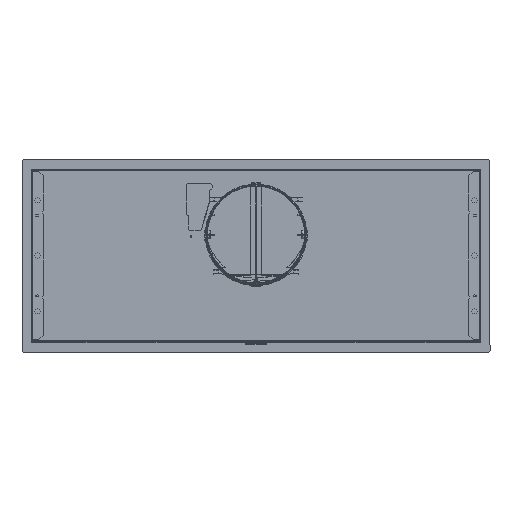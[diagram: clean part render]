
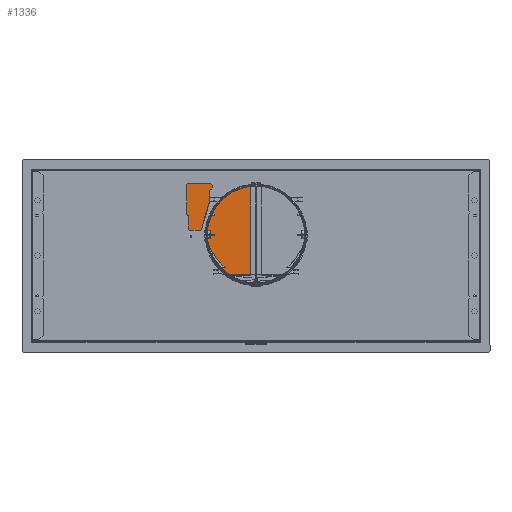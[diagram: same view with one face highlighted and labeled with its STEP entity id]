
A CAD part, top view. The second image highlights one B-rep face of the part: STEP entity #1336.
In plain terms, the highlighted planar face has unit normal (0, 0, 1) as drawn and (0, -1, 0) by its records, which use the part's own axes.
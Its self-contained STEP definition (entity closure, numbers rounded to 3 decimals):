
#1336=ADVANCED_FACE('',(#5806,#4336),#66808,.T.);
#4336=FACE_BOUND('',#9948,.T.);
#5806=FACE_OUTER_BOUND('',#9947,.T.);
#9947=EDGE_LOOP('',(#19059,#19060,#19061,#19062,#19063,#19064,#19065,#19066));
#9948=EDGE_LOOP('',(#19067,#19068,#19069,#19070,#19071,#19072));
#19059=ORIENTED_EDGE('',*,*,#36424,.T.);
#19060=ORIENTED_EDGE('',*,*,#36422,.F.);
#19061=ORIENTED_EDGE('',*,*,#36420,.T.);
#19062=ORIENTED_EDGE('',*,*,#36417,.F.);
#19063=ORIENTED_EDGE('',*,*,#36415,.T.);
#19064=ORIENTED_EDGE('',*,*,#36412,.F.);
#19065=ORIENTED_EDGE('',*,*,#36410,.T.);
#19066=ORIENTED_EDGE('',*,*,#36406,.F.);
#19067=ORIENTED_EDGE('',*,*,#36428,.F.);
#19068=ORIENTED_EDGE('',*,*,#36427,.F.);
#19069=ORIENTED_EDGE('',*,*,#36426,.F.);
#19070=ORIENTED_EDGE('',*,*,#36442,.F.);
#19071=ORIENTED_EDGE('',*,*,#36425,.F.);
#19072=ORIENTED_EDGE('',*,*,#36433,.F.);
#36406=EDGE_CURVE('',#59395,#59394,#52592,.T.);
#36410=EDGE_CURVE('',#59396,#59394,#44985,.T.);
#36412=EDGE_CURVE('',#59396,#59397,#52596,.T.);
#36415=EDGE_CURVE('',#59398,#59397,#44987,.T.);
#36417=EDGE_CURVE('',#59398,#59399,#52599,.T.);
#36420=EDGE_CURVE('',#59400,#59399,#44989,.T.);
#36422=EDGE_CURVE('',#59400,#59401,#52602,.T.);
#36424=EDGE_CURVE('',#59395,#59401,#44991,.T.);
#36425=EDGE_CURVE('',#59402,#59403,#52603,.T.);
#36426=EDGE_CURVE('',#59404,#59405,#52604,.T.);
#36427=EDGE_CURVE('',#59405,#59406,#52605,.T.);
#36428=EDGE_CURVE('',#59406,#59407,#52606,.T.);
#36433=EDGE_CURVE('',#59407,#59402,#44993,.T.);
#36442=EDGE_CURVE('',#59403,#59404,#44995,.T.);
#44985=TRIMMED_CURVE($,#48544,(#114822),(#114823),.T.,.CARTESIAN.);
#44987=TRIMMED_CURVE($,#48546,(#114834),(#114835),.T.,.CARTESIAN.);
#44989=TRIMMED_CURVE($,#48548,(#114846),(#114847),.T.,.CARTESIAN.);
#44991=TRIMMED_CURVE($,#48550,(#114856),(#114857),.T.,.CARTESIAN.);
#44993=TRIMMED_CURVE($,#48552,(#114876),(#114877),.T.,.CARTESIAN.);
#44995=TRIMMED_CURVE($,#48554,(#114896),(#114897),.T.,.CARTESIAN.);
#48544=CIRCLE('',#71085,0.5);
#48546=CIRCLE('',#71087,0.5);
#48548=CIRCLE('',#71089,0.5);
#48550=CIRCLE('',#71091,0.5);
#48552=CIRCLE('',#71093,1.);
#48554=CIRCLE('',#71095,1.);
#52592=B_SPLINE_CURVE_WITH_KNOTS('',1,(#114812,#114813),.UNSPECIFIED.,.F.,
 .F.,(2,2),(-142.,0.),.UNSPECIFIED.);
#52596=B_SPLINE_CURVE_WITH_KNOTS('',1,(#114826,#114827),.UNSPECIFIED.,.F.,
 .F.,(2,2),(-302.,0.),.UNSPECIFIED.);
#52599=B_SPLINE_CURVE_WITH_KNOTS('',1,(#114838,#114839),.UNSPECIFIED.,.F.,
 .F.,(2,2),(-142.,0.),.UNSPECIFIED.);
#52602=B_SPLINE_CURVE_WITH_KNOTS('',1,(#114850,#114851),.UNSPECIFIED.,.F.,
 .F.,(2,2),(-302.,0.),.UNSPECIFIED.);
#52603=B_SPLINE_CURVE_WITH_KNOTS('',1,(#114858,#114859),.UNSPECIFIED.,.F.,
 .F.,(2,2),(0.,31.),.UNSPECIFIED.);
#52604=B_SPLINE_CURVE_WITH_KNOTS('',1,(#114860,#114861),.UNSPECIFIED.,.F.,
 .F.,(2,2),(0.,42.),.UNSPECIFIED.);
#52605=B_SPLINE_CURVE_WITH_KNOTS('',1,(#114862,#114863),.UNSPECIFIED.,.F.,
 .F.,(2,2),(0.,33.),.UNSPECIFIED.);
#52606=B_SPLINE_CURVE_WITH_KNOTS('',1,(#114864,#114865),.UNSPECIFIED.,.F.,
 .F.,(2,2),(0.,42.),.UNSPECIFIED.);
#59394=VERTEX_POINT('',#113277);
#59395=VERTEX_POINT('',#113278);
#59396=VERTEX_POINT('',#113279);
#59397=VERTEX_POINT('',#113280);
#59398=VERTEX_POINT('',#113281);
#59399=VERTEX_POINT('',#113282);
#59400=VERTEX_POINT('',#113283);
#59401=VERTEX_POINT('',#113284);
#59402=VERTEX_POINT('',#113285);
#59403=VERTEX_POINT('',#113286);
#59404=VERTEX_POINT('',#113287);
#59405=VERTEX_POINT('',#113288);
#59406=VERTEX_POINT('',#113289);
#59407=VERTEX_POINT('',#113290);
#66808=PLANE('',#70892);
#70892=AXIS2_PLACEMENT_3D('',#112845,#78527,$);
#71085=AXIS2_PLACEMENT_3D($,#114821,#78905,#78906);
#71087=AXIS2_PLACEMENT_3D($,#114833,#78909,#78910);
#71089=AXIS2_PLACEMENT_3D($,#114845,#78913,#78914);
#71091=AXIS2_PLACEMENT_3D($,#114855,#78917,#78918);
#71093=AXIS2_PLACEMENT_3D($,#114875,#78921,#78922);
#71095=AXIS2_PLACEMENT_3D($,#114895,#78925,#78926);
#78527=DIRECTION('',(0.,-1.,0.));
#78905=DIRECTION('',(0.,-1.,0.));
#78906=DIRECTION('',(-1.,0.,0.));
#78909=DIRECTION('',(0.,-1.,0.));
#78910=DIRECTION('',(0.,0.,1.));
#78913=DIRECTION('',(0.,-1.,0.));
#78914=DIRECTION('',(1.,0.,0.));
#78917=DIRECTION('',(0.,-1.,0.));
#78918=DIRECTION('',(0.,0.,-1.));
#78921=DIRECTION('',(0.,-1.,0.));
#78922=DIRECTION('',(0.,0.,-1.));
#78925=DIRECTION('',(0.,-1.,0.));
#78926=DIRECTION('',(1.,0.,0.));
#112845=CARTESIAN_POINT('',(-86.232,-2.,182.232));
#113277=CARTESIAN_POINT('',(-71.,-2.,-151.5));
#113278=CARTESIAN_POINT('',(71.,-2.,-151.5));
#113279=CARTESIAN_POINT('',(-71.5,-2.,-151.));
#113280=CARTESIAN_POINT('',(-71.5,-2.,151.));
#113281=CARTESIAN_POINT('',(-71.,-2.,151.5));
#113282=CARTESIAN_POINT('',(71.,-2.,151.5));
#113283=CARTESIAN_POINT('',(71.5,-2.,151.));
#113284=CARTESIAN_POINT('',(71.5,-2.,-151.));
#113285=CARTESIAN_POINT('',(-27.2,-2.,-15.5));
#113286=CARTESIAN_POINT('',(-27.2,-2.,15.5));
#113287=CARTESIAN_POINT('',(-28.2,-2.,16.5));
#113288=CARTESIAN_POINT('',(-70.2,-2.,16.5));
#113289=CARTESIAN_POINT('',(-70.2,-2.,-16.5));
#113290=CARTESIAN_POINT('',(-28.2,-2.,-16.5));
#114812=CARTESIAN_POINT('',(71.,-2.,-151.5));
#114813=CARTESIAN_POINT('',(-71.,-2.,-151.5));
#114821=CARTESIAN_POINT('',(-71.,-2.,-151.));
#114822=CARTESIAN_POINT('',(-71.5,-2.,-151.));
#114823=CARTESIAN_POINT('',(-71.,-2.,-151.5));
#114826=CARTESIAN_POINT('',(-71.5,-2.,-151.));
#114827=CARTESIAN_POINT('',(-71.5,-2.,151.));
#114833=CARTESIAN_POINT('',(-71.,-2.,151.));
#114834=CARTESIAN_POINT('',(-71.,-2.,151.5));
#114835=CARTESIAN_POINT('',(-71.5,-2.,151.));
#114838=CARTESIAN_POINT('',(-71.,-2.,151.5));
#114839=CARTESIAN_POINT('',(71.,-2.,151.5));
#114845=CARTESIAN_POINT('',(71.,-2.,151.));
#114846=CARTESIAN_POINT('',(71.5,-2.,151.));
#114847=CARTESIAN_POINT('',(71.,-2.,151.5));
#114850=CARTESIAN_POINT('',(71.5,-2.,151.));
#114851=CARTESIAN_POINT('',(71.5,-2.,-151.));
#114855=CARTESIAN_POINT('',(71.,-2.,-151.));
#114856=CARTESIAN_POINT('',(71.,-2.,-151.5));
#114857=CARTESIAN_POINT('',(71.5,-2.,-151.));
#114858=CARTESIAN_POINT('',(-27.2,-2.,-15.5));
#114859=CARTESIAN_POINT('',(-27.2,-2.,15.5));
#114860=CARTESIAN_POINT('',(-28.2,-2.,16.5));
#114861=CARTESIAN_POINT('',(-70.2,-2.,16.5));
#114862=CARTESIAN_POINT('',(-70.2,-2.,16.5));
#114863=CARTESIAN_POINT('',(-70.2,-2.,-16.5));
#114864=CARTESIAN_POINT('',(-70.2,-2.,-16.5));
#114865=CARTESIAN_POINT('',(-28.2,-2.,-16.5));
#114875=CARTESIAN_POINT('',(-28.2,-2.,-15.5));
#114876=CARTESIAN_POINT('',(-28.2,-2.,-16.5));
#114877=CARTESIAN_POINT('',(-27.2,-2.,-15.5));
#114895=CARTESIAN_POINT('',(-28.2,-2.,15.5));
#114896=CARTESIAN_POINT('',(-27.2,-2.,15.5));
#114897=CARTESIAN_POINT('',(-28.2,-2.,16.5));
